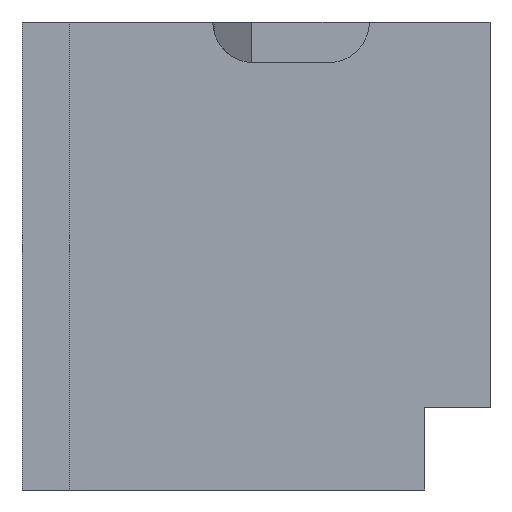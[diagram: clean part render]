
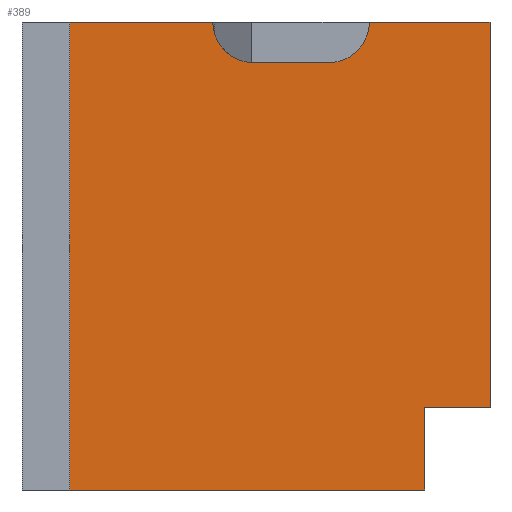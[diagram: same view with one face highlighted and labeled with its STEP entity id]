
A CAD part, left-side view. The second image highlights one B-rep face of the part: STEP entity #389.
In plain terms, the highlighted planar face has unit normal (-1, 0, 0).
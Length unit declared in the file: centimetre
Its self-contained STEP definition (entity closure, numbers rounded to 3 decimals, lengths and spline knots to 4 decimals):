
#1 = DIRECTION ( 'NONE',  ( 0., 0., -1. ) ) ;
#16 = DIRECTION ( 'NONE',  ( 0., 0., -1. ) ) ;
#21 = LINE ( 'NONE', #528, #38 ) ;
#24 = VERTEX_POINT ( 'NONE', #201 ) ;
#29 = EDGE_CURVE ( 'NONE', #542, #142, #458, .T. ) ;
#32 = EDGE_CURVE ( 'NONE', #431, #542, #571, .T. ) ;
#37 = EDGE_CURVE ( 'NONE', #275, #24, #443, .T. ) ;
#38 = VECTOR ( 'NONE', #647, 100. ) ;
#51 = ORIENTED_EDGE ( 'NONE', *, *, #37, .F. ) ;
#86 = AXIS2_PLACEMENT_3D ( 'NONE', #384, #655, #179 ) ;
#108 = ORIENTED_EDGE ( 'NONE', *, *, #656, .F. ) ;
#118 = VECTOR ( 'NONE', #423, 100. ) ;
#134 = PLANE ( 'NONE',  #86 ) ;
#142 = VERTEX_POINT ( 'NONE', #312 ) ;
#152 = EDGE_CURVE ( 'NONE', #24, #431, #617, .T. ) ;
#160 = LINE ( 'NONE', #679, #537 ) ;
#164 = VECTOR ( 'NONE', #769, 100. ) ;
#173 = CARTESIAN_POINT ( 'NONE',  ( 0., 898.1435, 1000. ) ) ;
#176 = LINE ( 'NONE', #181, #164 ) ;
#179 = DIRECTION ( 'NONE',  ( 0., 0., -1. ) ) ;
#181 = CARTESIAN_POINT ( 'NONE',  ( 0., 1000., 1000. ) ) ;
#191 = DIRECTION ( 'NONE',  ( 0., -1., 0. ) ) ;
#194 = LINE ( 'NONE', #512, #453 ) ;
#195 = DIRECTION ( 'NONE',  ( 0., -1., 0. ) ) ;
#199 = DIRECTION ( 'NONE',  ( -1., 0., 0. ) ) ;
#201 = CARTESIAN_POINT ( 'NONE',  ( 0., 344.5113, 913.2278 ) ) ;
#225 = DIRECTION ( 'NONE',  ( 0., 0., -1. ) ) ;
#237 = CARTESIAN_POINT ( 'NONE',  ( 0., 139.4982, 176.5064 ) ) ;
#238 = CARTESIAN_POINT ( 'NONE',  ( 0., 139.4982, 0. ) ) ;
#245 = EDGE_CURVE ( 'NONE', #479, #265, #176, .T. ) ;
#258 = CARTESIAN_POINT ( 'NONE',  ( 0., 344.5113, 1000. ) ) ;
#265 = VERTEX_POINT ( 'NONE', #819 ) ;
#271 = ORIENTED_EDGE ( 'NONE', *, *, #29, .F. ) ;
#275 = VERTEX_POINT ( 'NONE', #696 ) ;
#289 = AXIS2_PLACEMENT_3D ( 'NONE', #541, #808, #225 ) ;
#312 = CARTESIAN_POINT ( 'NONE',  ( 0., 0., 176.5064 ) ) ;
#325 = CARTESIAN_POINT ( 'NONE',  ( 0., 898.1435, 1000. ) ) ;
#327 = CARTESIAN_POINT ( 'NONE',  ( 0., 0., 1000. ) ) ;
#338 = ORIENTED_EDGE ( 'NONE', *, *, #245, .F. ) ;
#341 = ORIENTED_EDGE ( 'NONE', *, *, #32, .F. ) ;
#382 = CARTESIAN_POINT ( 'NONE',  ( 0., 1000., 1000. ) ) ;
#384 = CARTESIAN_POINT ( 'NONE',  ( 0., 1000., 1000. ) ) ;
#386 = VERTEX_POINT ( 'NONE', #238 ) ;
#388 = CARTESIAN_POINT ( 'NONE',  ( 0., 344.5113, 913.2278 ) ) ;
#389 = ADVANCED_FACE ( 'NONE', ( #765 ), #134, .F. ) ;
#394 = EDGE_LOOP ( 'NONE', ( #637, #540, #108, #271, #341, #496, #51, #454, #338, #658 ) ) ;
#413 = VERTEX_POINT ( 'NONE', #780 ) ;
#423 = DIRECTION ( 'NONE',  ( 0., 0., -1. ) ) ;
#431 = VERTEX_POINT ( 'NONE', #442 ) ;
#442 = CARTESIAN_POINT ( 'NONE',  ( 0., 257.7392, 1000. ) ) ;
#443 = LINE ( 'NONE', #388, #555 ) ;
#453 = VECTOR ( 'NONE', #516, 100. ) ;
#454 = ORIENTED_EDGE ( 'NONE', *, *, #681, .F. ) ;
#458 = LINE ( 'NONE', #327, #816 ) ;
#478 = VECTOR ( 'NONE', #191, 100. ) ;
#479 = VERTEX_POINT ( 'NONE', #325 ) ;
#496 = ORIENTED_EDGE ( 'NONE', *, *, #152, .F. ) ;
#509 = EDGE_CURVE ( 'NONE', #776, #386, #21, .T. ) ;
#512 = CARTESIAN_POINT ( 'NONE',  ( 0., 1000., 0. ) ) ;
#516 = DIRECTION ( 'NONE',  ( 0., -1., 0. ) ) ;
#520 = EDGE_CURVE ( 'NONE', #413, #386, #194, .T. ) ;
#528 = CARTESIAN_POINT ( 'NONE',  ( 0., 139.4982, 0. ) ) ;
#537 = VECTOR ( 'NONE', #677, 100. ) ;
#540 = ORIENTED_EDGE ( 'NONE', *, *, #509, .F. ) ;
#541 = CARTESIAN_POINT ( 'NONE',  ( 0., 505.5437, 1000. ) ) ;
#542 = VERTEX_POINT ( 'NONE', #546 ) ;
#546 = CARTESIAN_POINT ( 'NONE',  ( 0., 0., 1000. ) ) ;
#555 = VECTOR ( 'NONE', #195, 100. ) ;
#571 = LINE ( 'NONE', #382, #478 ) ;
#617 = CIRCLE ( 'NONE', #773, 86.7721 ) ;
#618 = LINE ( 'NONE', #173, #118 ) ;
#637 = ORIENTED_EDGE ( 'NONE', *, *, #520, .T. ) ;
#647 = DIRECTION ( 'NONE',  ( 0., 0., -1. ) ) ;
#655 = DIRECTION ( 'NONE',  ( 1., 0., 0. ) ) ;
#656 = EDGE_CURVE ( 'NONE', #142, #776, #160, .T. ) ;
#658 = ORIENTED_EDGE ( 'NONE', *, *, #725, .T. ) ;
#677 = DIRECTION ( 'NONE',  ( 0., 1., 0. ) ) ;
#679 = CARTESIAN_POINT ( 'NONE',  ( 0., 0., 176.5064 ) ) ;
#681 = EDGE_CURVE ( 'NONE', #265, #275, #739, .T. ) ;
#696 = CARTESIAN_POINT ( 'NONE',  ( 0., 505.5437, 913.2278 ) ) ;
#725 = EDGE_CURVE ( 'NONE', #479, #413, #618, .T. ) ;
#739 = CIRCLE ( 'NONE', #289, 86.7721 ) ;
#765 = FACE_OUTER_BOUND ( 'NONE', #394, .T. ) ;
#769 = DIRECTION ( 'NONE',  ( 0., -1., 0. ) ) ;
#773 = AXIS2_PLACEMENT_3D ( 'NONE', #258, #199, #1 ) ;
#776 = VERTEX_POINT ( 'NONE', #237 ) ;
#780 = CARTESIAN_POINT ( 'NONE',  ( 0., 898.1435, 0. ) ) ;
#808 = DIRECTION ( 'NONE',  ( -1., 0., 0. ) ) ;
#816 = VECTOR ( 'NONE', #16, 100. ) ;
#819 = CARTESIAN_POINT ( 'NONE',  ( 0., 592.3158, 1000. ) ) ;
